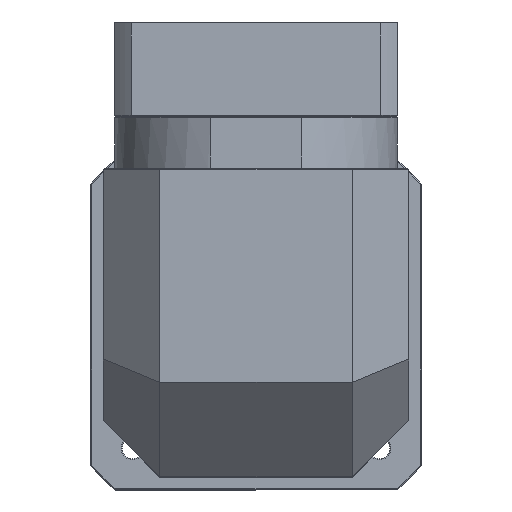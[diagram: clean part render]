
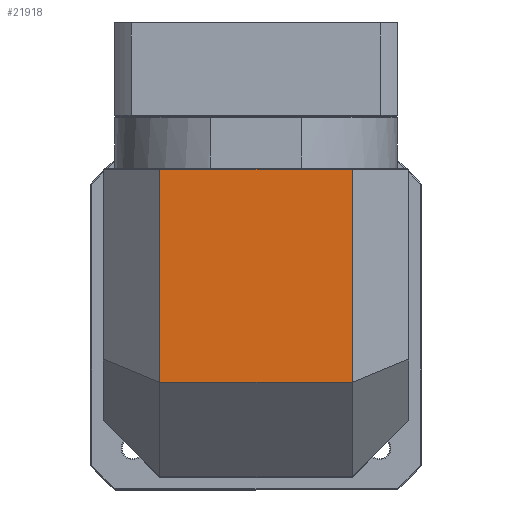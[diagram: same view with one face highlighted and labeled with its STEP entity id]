
A CAD part, top view. The second image highlights one B-rep face of the part: STEP entity #21918.
In plain terms, the highlighted planar face has unit normal (0, 0, 1).
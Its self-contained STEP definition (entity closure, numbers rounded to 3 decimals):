
#2521 = CARTESIAN_POINT ( 'NONE',  ( -135.293, 95.755, 72.483 ) ) ;
#3361 = CARTESIAN_POINT ( 'NONE',  ( -165.293, 177.505, 72.483 ) ) ;
#3735 = VECTOR ( 'NONE', #66915, 1000. ) ;
#5384 = LINE ( 'NONE', #127014, #3735 ) ;
#10785 = DIRECTION ( 'NONE',  ( 1., 0., 0. ) ) ;
#18423 = ORIENTED_EDGE ( 'NONE', *, *, #98223, .T. ) ;
#21918 = ADVANCED_FACE ( 'NONE', ( #108505 ), #63195, .F. ) ;
#24578 = DIRECTION ( 'NONE',  ( -1., 0., 0. ) ) ;
#26170 = LINE ( 'NONE', #53473, #104441 ) ;
#28987 = EDGE_CURVE ( 'NONE', #116594, #101880, #52491, .T. ) ;
#31357 = ORIENTED_EDGE ( 'NONE', *, *, #104001, .F. ) ;
#32202 = EDGE_LOOP ( 'NONE', ( #103062, #84282, #31357, #18423 ) ) ;
#33496 = DIRECTION ( 'NONE',  ( 0., 0., -1. ) ) ;
#52491 = LINE ( 'NONE', #54587, #102676 ) ;
#53187 = DIRECTION ( 'NONE',  ( 0., 1., 0. ) ) ;
#53473 = CARTESIAN_POINT ( 'NONE',  ( -165.293, 177.005, 72.483 ) ) ;
#54587 = CARTESIAN_POINT ( 'NONE',  ( -33.293, 177.505, 72.483 ) ) ;
#55757 = CARTESIAN_POINT ( 'NONE',  ( -135.293, 177.005, 72.483 ) ) ;
#63195 = PLANE ( 'NONE',  #93538 ) ;
#64152 = DIRECTION ( 'NONE',  ( 0., 1., 0. ) ) ;
#65181 = CARTESIAN_POINT ( 'NONE',  ( -33.293, 177.005, 72.483 ) ) ;
#66915 = DIRECTION ( 'NONE',  ( 1., 0., 0. ) ) ;
#84282 = ORIENTED_EDGE ( 'NONE', *, *, #124396, .T. ) ;
#91101 = VERTEX_POINT ( 'NONE', #114043 ) ;
#91305 = VERTEX_POINT ( 'NONE', #55757 ) ;
#91798 = LINE ( 'NONE', #2521, #121532 ) ;
#93538 = AXIS2_PLACEMENT_3D ( 'NONE', #3361, #33496, #10785 ) ;
#98223 = EDGE_CURVE ( 'NONE', #91101, #116594, #5384, .T. ) ;
#101880 = VERTEX_POINT ( 'NONE', #65181 ) ;
#102676 = VECTOR ( 'NONE', #64152, 1000. ) ;
#103062 = ORIENTED_EDGE ( 'NONE', *, *, #28987, .T. ) ;
#104001 = EDGE_CURVE ( 'NONE', #91101, #91305, #91798, .T. ) ;
#104441 = VECTOR ( 'NONE', #24578, 1000. ) ;
#108505 = FACE_OUTER_BOUND ( 'NONE', #32202, .T. ) ;
#114043 = CARTESIAN_POINT ( 'NONE',  ( -135.293, 64.005, 72.483 ) ) ;
#116594 = VERTEX_POINT ( 'NONE', #117743 ) ;
#117743 = CARTESIAN_POINT ( 'NONE',  ( -33.293, 64.005, 72.483 ) ) ;
#121532 = VECTOR ( 'NONE', #53187, 1000. ) ;
#124396 = EDGE_CURVE ( 'NONE', #101880, #91305, #26170, .T. ) ;
#127014 = CARTESIAN_POINT ( 'NONE',  ( -165.293, 64.005, 72.483 ) ) ;
